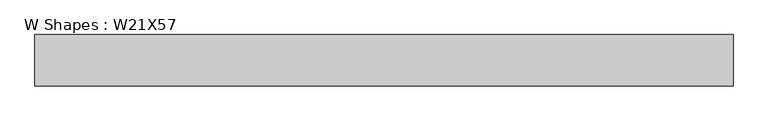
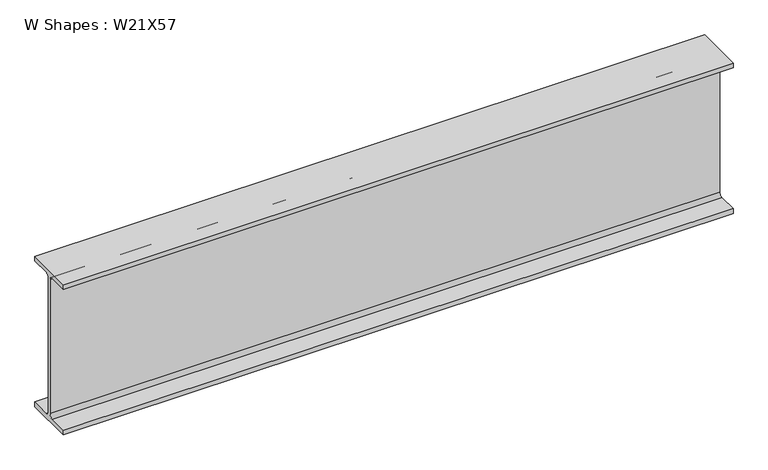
"""IFC4 building model written with IfcOpenShell, lengths in millimetres: beam geometry, W Shapes : W21X57."""

from ifc_helpers import new_model, si_unit, point, frame, frame_2d, origin, place, context, project, spatial, polyline, circle_curve, trimmed, segment, composite_curve, outline, extrude, source, transform, mapped, element, save


def w_shapes_w21x57_65fae525(model_context):
    return source(origin(), model_context, "Body", "SweptSolid", [
        extrude(outline(composite_curve([segment(polyline([(83.312, -251.46), (83.312, -267.97), (-83.312, -267.97), (-83.312, -251.46), (-17.907, -251.46)]), True, "CONTINUOUS"), segment(trimmed(circle_curve(frame_2d((-17.907, -238.76)), 12.7), [point((-17.907, -251.46))], [point((-5.207, -238.76))], True, "CARTESIAN"), True, "CONTINUOUS"), segment(polyline([(-5.207, -238.76), (-5.207, 238.76)]), True, "CONTINUOUS"), segment(trimmed(circle_curve(frame_2d((-17.907, 238.76)), 12.7), [point((-5.207, 238.76))], [point((-17.907, 251.46))], True, "CARTESIAN"), True, "CONTINUOUS"), segment(polyline([(-17.907, 251.46), (-83.312, 251.46), (-83.312, 267.97), (83.312, 267.97), (83.312, 251.46), (17.907, 251.46)]), True, "CONTINUOUS"), segment(trimmed(circle_curve(frame_2d((17.907, 238.76)), 12.7), [point((17.907, 251.46))], [point((5.207, 238.76))], True, "CARTESIAN"), True, "CONTINUOUS"), segment(polyline([(5.207, 238.76), (5.207, -238.76)]), True, "CONTINUOUS"), segment(trimmed(circle_curve(frame_2d((17.907, -238.76)), 12.7), [point((5.207, -238.76))], [point((17.907, -251.46))], True, "CARTESIAN"), True, "CONTINUOUS"), segment(polyline([(17.907, -251.46), (83.312, -251.46)]), True, "CONTINUOUS")], self_intersect=False)), frame((-1091.488, 0.0, 0.0), z_axis=(1.0, 0.0, 0.0), x_axis=(0.0, 1.0, 0.0)), (0.0, 0.0, 1.0), 2257.938),
    ])


if __name__ == "__main__":
    model = new_model("IFC4")
    model_context = context("Model", 3, world=origin())
    ifc_project = project(units=[si_unit("LENGTHUNIT", "METRE", prefix="MILLI")], contexts=[model_context])
    site = spatial("IfcSite", under=ifc_project)
    building = spatial("IfcBuilding", under=site)
    placement = place(None, origin())
    w_shapes_w21x57_shape = w_shapes_w21x57_65fae525(model_context)
    element("IfcBeam", 1, ObjectType="W Shapes : W21X57", at=placement, inside=building, context=model_context, shape_type="MappedRepresentation", body=[
        mapped(w_shapes_w21x57_shape, transform((0.0, 0.0, 0.0), x_axis=(1.0, 0.0, 0.0), y_axis=(0.0, 1.0, 0.0), z_axis=(0.0, 0.0, 1.0))),
    ])
    save(model, "model.ifc")
